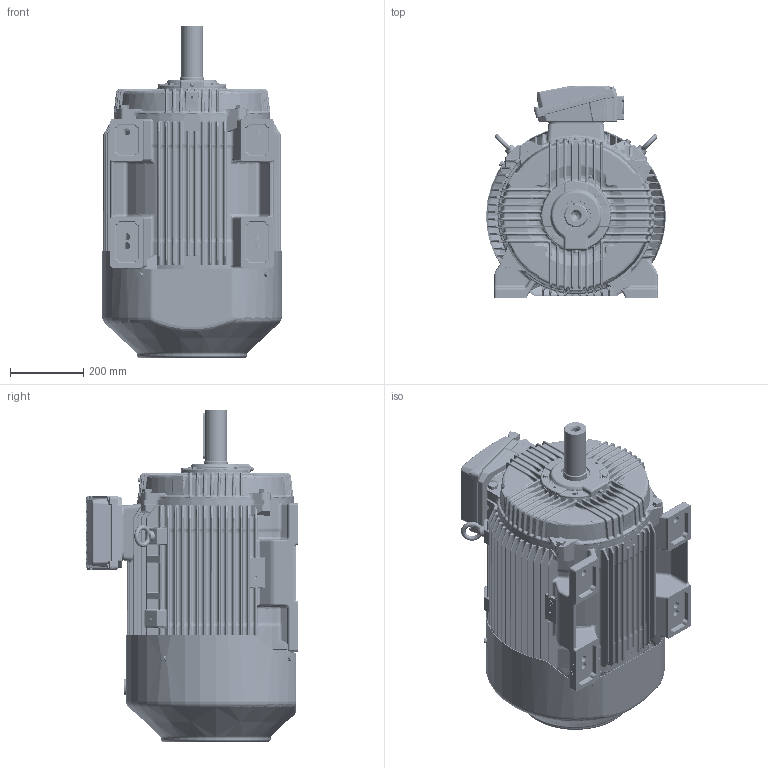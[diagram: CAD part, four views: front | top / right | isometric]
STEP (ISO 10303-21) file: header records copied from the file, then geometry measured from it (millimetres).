
FILE_DESCRIPTION (( 'STEP AP203' ), '1' );
FILE_NAME ('0222500478_RevA.STEP', '2023-04-27T03:41:35', ( '' ), ( '' ), 'SwSTEP 2.0', 'SolidWorks 2021', '' );
FILE_SCHEMA (( 'CONFIG_CONTROL_DESIGN' ));
Length unit declared in the file: inch
Products named in the file (1): 0222500478_RevA
Bounding box: 491 x 579.4 x 906.5 mm (x, y, z)
Volume: 24653742.2 mm3; surface area: 5353949.1 mm2
Topology: 65 solids, 65 shells, 11725 faces, 29305 edges, 17535 vertices
Faces by surface type: cylinder 3515, bspline 3060, plane 2289, torus 1377, cone 1182, sphere 302
Entity records: 461985 total; most frequent: CARTESIAN_POINT 204887, ORIENTED_EDGE 57918, DIRECTION 49967, EDGE_CURVE 28959, AXIS2_PLACEMENT_3D 20733, VERTEX_POINT 17503, EDGE_LOOP 12664, CIRCLE 12067
